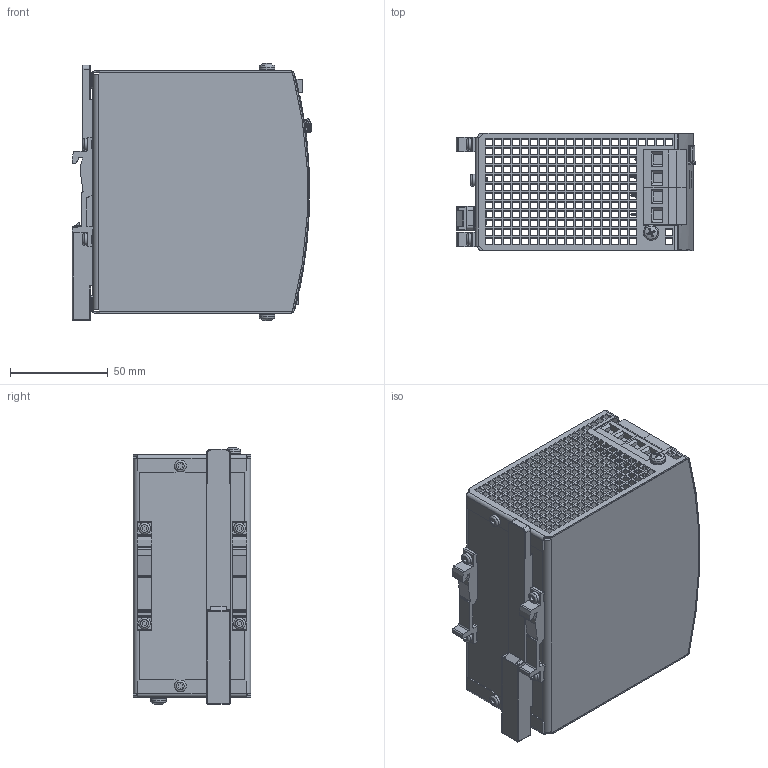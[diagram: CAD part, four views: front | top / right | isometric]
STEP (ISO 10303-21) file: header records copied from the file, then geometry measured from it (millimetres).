
FILE_DESCRIPTION((''),'2;1');
FILE_NAME('C:\Users\rahns\Desktop\Marketing\SD1CS10-242-S1SR1_SC_2014-07-03.stp','2014-07-03T10:10:35',('rahns'),(''),'Autodesk Inventor 2009','Autodesk Inventor 2009','');
FILE_SCHEMA(('AUTOMOTIVE_DESIGN { 1 0 10303 214 1 1 1 1 }'));
Length unit declared in the file: millimetre
Products named in the file (13): 360; HOUSING COVER 360; HOUSING BODY 360; T HOLDER; WASHER 4; SCREW 4x8; SLIDER; SCREW 3x6; TERMINAL 3P R9,52 T; TERMINAL 2P R9,52 T; POTENTIOMETER COVER; LED GN; FRONTFOIL 360
Assembly tree (21 placements, depth 2):
  360
    HOUSING COVER 360
    HOUSING BODY 360
    T HOLDER  x2
    WASHER 4  x2
    SCREW 4x8  x2
    SLIDER
    SCREW 3x6  x6
    TERMINAL 3P R9,52 T
    TERMINAL 2P R9,52 T  x2
    POTENTIOMETER COVER
    LED GN
    FRONTFOIL 360
Bounding box: 122.5 x 60 x 131.73 mm (x, y, z)
Volume: 89687.7 mm3; surface area: 130807.4 mm2
Topology: 21 solids, 21 shells, 3238 faces, 9070 edges, 6002 vertices
Faces by surface type: plane 2683, cylinder 252, bspline 225, cone 32, torus 32, sphere 14
Full cylindrical faces by diameter (mm): 0.05 x7, 2.45 x2, 3 x6, 3.1 x4, 3.5 x1, 3.621 x2, 4 x2, 4.2 x1, 4.355 x1, 4.5 x2, 4.6 x1, 4.9 x1, 5.15 x7, 6 x6
Entity records: 103884 total; most frequent: CARTESIAN_POINT 25936, ORIENTED_EDGE 16628, DIRECTION 14050, EDGE_CURVE 8314, VECTOR 7110, LINE 7110, VERTEX_POINT 5517, EDGE_LOOP 3977
